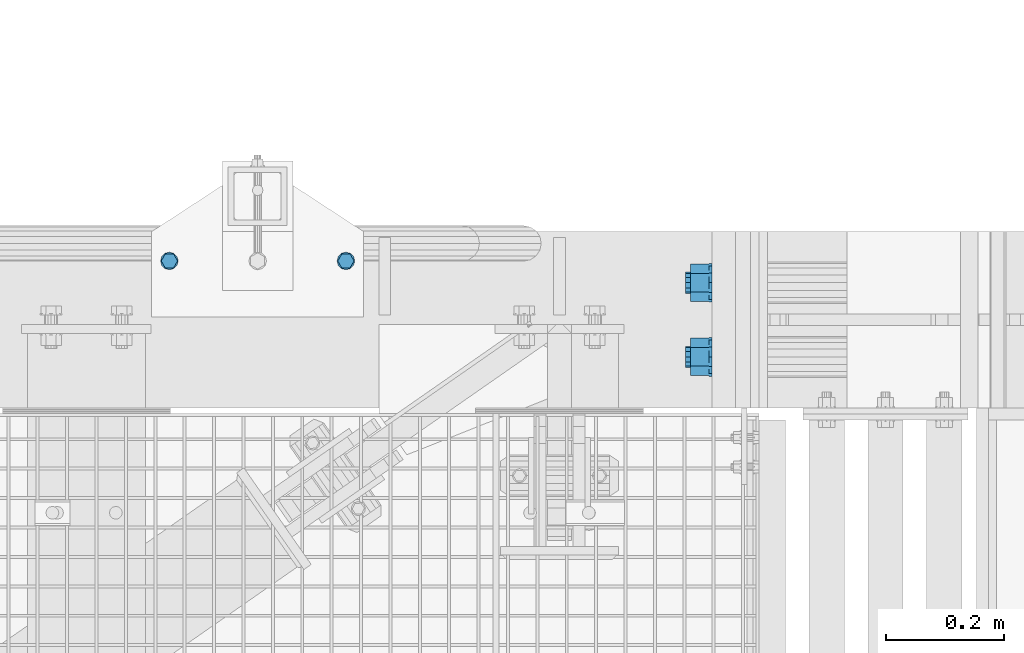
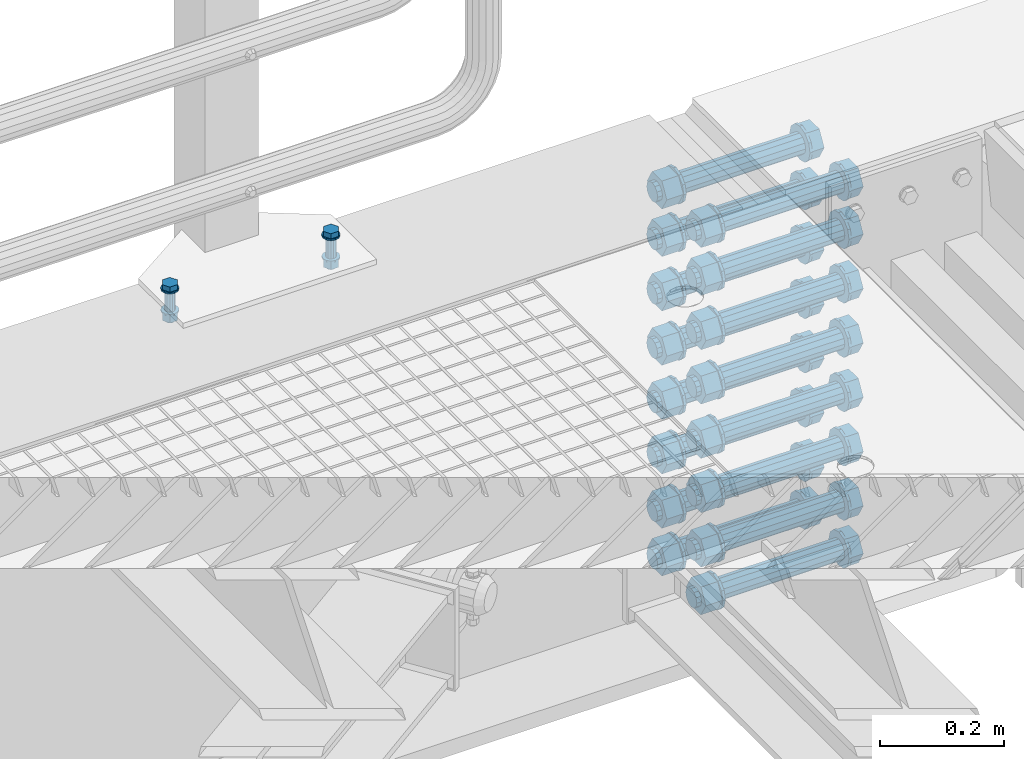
# One storey, part 58 of 1530: 2 mechanical fasteners.
"""IFC2X3 building model written with IfcOpenShell, lengths in millimetres."""

from ifc_helpers import new_model, si_unit, frame, origin_with_axes, place, context, subcontext, project, spatial, faceted_brep, source, transform, mapped, material, type_object, element, save


model = new_model("IFC2X3")

# Units and contexts
model_context = context("Model", 3, precision=1e-05, world=origin_with_axes())
body_context = subcontext(model_context, "Body", "Model", "MODEL_VIEW")
ifc_project = project(units=[si_unit("LENGTHUNIT", "METRE", prefix="MILLI"), si_unit("AREAUNIT", "SQUARE_METRE"), si_unit("VOLUMEUNIT", "CUBIC_METRE"), si_unit("MASSUNIT", "GRAM", prefix="KILO"), si_unit("TIMEUNIT", "SECOND"), si_unit("PLANEANGLEUNIT", "RADIAN"), si_unit("SOLIDANGLEUNIT", "STERADIAN"), si_unit("THERMODYNAMICTEMPERATUREUNIT", "DEGREE_CELSIUS"), si_unit("LUMINOUSINTENSITYUNIT", "LUMEN")], contexts=[model_context])

# Site, building, storey
site_placement = place(None, origin_with_axes())
site = spatial("IfcSite", under=ifc_project, at=site_placement, Name="Brattvåg", CompositionType="ELEMENT")
building_placement = place(site_placement, origin_with_axes())
building = spatial("IfcBuilding", under=site, at=building_placement, Name="Undefined", CompositionType="ELEMENT")
storey_placement = place(building_placement, origin_with_axes())
storey = spatial("IfcBuildingStorey", under=building, at=storey_placement, Name="Undefined", CompositionType="ELEMENT", Elevation=0.0)

# Mechanical fasteners
ifc_material = material(Name="8")
mechanical_fastener_type = type_object("IfcMechanicalFastenerType", Name="Bolt assembly")
shared_shape_1 = source(origin_with_axes(), body_context, "Body", "Brep", [
    faceted_brep([(31.7542648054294, -27.5, 0.0), (15.8771324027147, -27.5, 27.5), (-15.8771324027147, -27.5, 27.5), (-31.7542648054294, -27.5, 3.88877587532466e-15), (-15.8771324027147, -27.5, -27.5), (15.8771324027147, -27.5, -27.5), (15.8771324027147, -5.0, -27.5), (-15.8771324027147, -5.0, -27.5), (-31.7542648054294, -5.0, 3.88877587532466e-15), (-15.8771324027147, -5.0, 27.5), (15.8771324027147, -5.0, 27.5), (31.7542648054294, -5.0, 0.0), (18.0, -5.0, 0.0), (15.5884572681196, -5.0, 9.00000000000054), (8.99999999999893, -5.0, 15.5884572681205), (-1.86540476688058e-12, -5.0, 18.0), (-9.00000000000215, -5.0, 15.5884572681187), (-15.5884572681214, -5.0, 8.99999999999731), (-18.0, -5.0, -3.73080953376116e-12), (-15.5884572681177, -5.0, -9.00000000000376), (-8.9999999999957, -5.0, -15.5884572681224), (5.57623028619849e-12, -5.0, -18.0), (9.00000000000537, -5.0, -15.5884572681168), (15.5884572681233, -5.0, -8.99999999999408), (15.5884572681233, 275.0, -8.99999999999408), (9.00000000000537, 275.0, -15.5884572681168), (5.57623028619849e-12, 275.0, -18.0), (-8.9999999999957, 275.0, -15.5884572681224), (-15.5884572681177, 275.0, -9.00000000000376), (-18.0, 275.0, -3.73080953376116e-12), (-15.5884572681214, 275.0, 8.99999999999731), (-9.00000000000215, 275.0, 15.5884572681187), (-1.86540476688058e-12, 275.0, 18.0), (8.99999999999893, 275.0, 15.5884572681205), (15.5884572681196, 275.0, 9.00000000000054), (18.0, 275.0, 0.0), (33.0, -5.0, 0.0), (28.5788383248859, -5.0, 16.500000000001), (16.499999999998, -5.0, 28.5788383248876), (-3.41990873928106e-12, -5.0, 33.0), (-16.5000000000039, -5.0, 28.5788383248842), (-28.5788383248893, -5.0, 16.4999999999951), (-33.0, -5.0, -6.83981747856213e-12), (-28.5788383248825, -5.0, -16.5000000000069), (-16.4999999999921, -5.0, -28.578838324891), (1.02230888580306e-11, -5.0, -33.0), (16.5000000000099, -5.0, -28.5788383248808), (28.5788383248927, -5.0, -16.4999999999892), (28.5788383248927, 0.0, -16.4999999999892), (16.5000000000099, 0.0, -28.5788383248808), (1.02230888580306e-11, 0.0, -33.0), (-16.4999999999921, 0.0, -28.578838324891), (-28.5788383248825, 0.0, -16.5000000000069), (-33.0, 0.0, -6.83981747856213e-12), (-28.5788383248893, 0.0, 16.4999999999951), (-16.5000000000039, 0.0, 28.5788383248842), (-3.41990873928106e-12, 0.0, 33.0), (16.499999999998, 0.0, 28.5788383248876), (28.5788383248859, 0.0, 16.500000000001), (33.0, 0.0, 0.0), (33.0, 229.998829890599, 0.0), (28.5788383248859, 229.998829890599, 16.500000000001), (16.499999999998, 229.998829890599, 28.5788383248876), (-3.41990873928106e-12, 229.998829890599, 33.0), (-16.5000000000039, 229.998829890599, 28.5788383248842), (-28.5788383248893, 229.998829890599, 16.4999999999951), (-33.0, 229.998829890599, -6.83981747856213e-12), (-28.5788383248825, 229.998829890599, -16.5000000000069), (-16.4999999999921, 229.998829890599, -28.578838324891), (1.02230888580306e-11, 229.998829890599, -33.0), (16.5000000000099, 229.998829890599, -28.5788383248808), (28.5788383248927, 229.998829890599, -16.4999999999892), (28.5788383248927, 234.998829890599, -16.4999999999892), (16.5000000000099, 234.998829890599, -28.5788383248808), (1.02230888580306e-11, 234.998829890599, -33.0), (-16.4999999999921, 234.998829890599, -28.578838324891), (-28.5788383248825, 234.998829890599, -16.5000000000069), (-33.0, 234.998829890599, -6.83981747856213e-12), (-28.5788383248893, 234.998829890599, 16.4999999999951), (-16.5000000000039, 234.998829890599, 28.5788383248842), (-3.41990873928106e-12, 234.998829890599, 33.0), (16.499999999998, 234.998829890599, 28.5788383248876), (28.5788383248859, 234.998829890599, 16.500000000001), (33.0, 234.998829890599, 0.0), (31.7542648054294, 234.998829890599, 0.0), (15.8771324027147, 234.998829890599, 27.5), (-15.8771324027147, 234.998829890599, 27.5), (-31.7542648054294, 234.998829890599, 3.88877587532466e-15), (-15.8771324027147, 234.998829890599, -27.5), (15.8771324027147, 234.998829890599, -27.5), (15.8771324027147, 265.998829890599, -27.5), (-15.8771324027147, 265.998829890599, -27.5), (-31.7542648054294, 265.998829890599, 3.88877587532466e-15), (-15.8771324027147, 265.998829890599, 27.5), (15.8771324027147, 265.998829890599, 27.5), (31.7542648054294, 265.998829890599, 0.0)], [[[0, 1, 2, 3, 4, 5]], [[6, 7, 8, 9, 10, 11]], [[0, 11, 10, 1]], [[1, 10, 9, 2]], [[2, 9, 8, 3]], [[3, 8, 7, 4]], [[4, 7, 6, 5]], [[5, 6, 11, 0]], [[12, 13, 14, 15, 16, 17, 18, 19, 20, 21, 22, 23]], [[24, 25, 26, 27, 28, 29, 30, 31, 32, 33, 34, 35]], [[12, 35, 34, 13]], [[13, 34, 33, 14]], [[14, 33, 32, 15]], [[15, 32, 31, 16]], [[16, 31, 30, 17]], [[17, 30, 29, 18]], [[18, 29, 28, 19]], [[19, 28, 27, 20]], [[20, 27, 26, 21]], [[21, 26, 25, 22]], [[22, 25, 24, 23]], [[23, 24, 35, 12]], [[36, 37, 38, 39, 40, 41, 42, 43, 44, 45, 46, 47]], [[48, 49, 50, 51, 52, 53, 54, 55, 56, 57, 58, 59]], [[36, 59, 58, 37]], [[37, 58, 57, 38]], [[38, 57, 56, 39]], [[39, 56, 55, 40]], [[40, 55, 54, 41]], [[41, 54, 53, 42]], [[42, 53, 52, 43]], [[43, 52, 51, 44]], [[44, 51, 50, 45]], [[45, 50, 49, 46]], [[46, 49, 48, 47]], [[47, 48, 59, 36]], [[60, 61, 62, 63, 64, 65, 66, 67, 68, 69, 70, 71]], [[72, 73, 74, 75, 76, 77, 78, 79, 80, 81, 82, 83]], [[60, 83, 82, 61]], [[61, 82, 81, 62]], [[62, 81, 80, 63]], [[63, 80, 79, 64]], [[64, 79, 78, 65]], [[65, 78, 77, 66]], [[66, 77, 76, 67]], [[67, 76, 75, 68]], [[68, 75, 74, 69]], [[69, 74, 73, 70]], [[70, 73, 72, 71]], [[71, 72, 83, 60]], [[84, 85, 86, 87, 88, 89]], [[90, 91, 92, 93, 94, 95]], [[84, 95, 94, 85]], [[85, 94, 93, 86]], [[86, 93, 92, 87]], [[87, 92, 91, 88]], [[88, 91, 90, 89]], [[89, 90, 95, 84]]]),
    faceted_brep([(19.5, 0.1, 0.0), (16.8874953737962, 0.1, 9.75000000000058), (9.74999999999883, 0.1, 16.8874953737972), (-2.02085516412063e-12, 0.1, 19.5), (-9.75000000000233, 0.1, 16.8874953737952), (-16.8874953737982, 0.1, 9.74999999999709), (-19.5, 0.1, -4.04171032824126e-12), (-16.8874953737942, 0.1, -9.75000000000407), (-9.74999999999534, 0.1, -16.8874953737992), (6.0409161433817e-12, 0.1, -19.5), (9.75000000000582, 0.1, -16.8874953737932), (16.8874953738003, 0.1, -9.74999999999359), (16.8874953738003, 150.1, -9.74999999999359), (9.75000000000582, 150.1, -16.8874953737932), (6.0409161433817e-12, 150.1, -19.5), (-9.74999999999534, 150.1, -16.8874953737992), (-16.8874953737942, 150.1, -9.75000000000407), (-19.5, 150.1, -4.04171032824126e-12), (-16.8874953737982, 150.1, 9.74999999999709), (-9.75000000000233, 150.1, 16.8874953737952), (-2.02085516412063e-12, 150.1, 19.5), (9.74999999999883, 150.1, 16.8874953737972), (16.8874953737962, 150.1, 9.75000000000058), (19.5, 150.1, 0.0), (19.5, 149.998829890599, 0.0), (16.8874953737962, 149.998829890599, 9.75000000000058), (9.74999999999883, 149.998829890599, 16.8874953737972), (-2.02085516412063e-12, 149.998829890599, 19.5), (-9.75000000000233, 149.998829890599, 16.8874953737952), (-16.8874953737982, 149.998829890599, 9.74999999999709), (-19.5, 149.998829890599, -4.04171032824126e-12), (-16.8874953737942, 149.998829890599, -9.75000000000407), (-9.74999999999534, 149.998829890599, -16.8874953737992), (6.0409161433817e-12, 149.998829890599, -19.5), (9.75000000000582, 149.998829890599, -16.8874953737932), (16.8874953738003, 149.998829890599, -9.74999999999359), (16.8874953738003, 189.998829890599, -9.74999999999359), (9.75000000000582, 189.998829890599, -16.8874953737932), (6.0409161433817e-12, 189.998829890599, -19.5), (-9.74999999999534, 189.998829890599, -16.8874953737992), (-16.8874953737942, 189.998829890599, -9.75000000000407), (-19.5, 189.998829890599, -4.04171032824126e-12), (-16.8874953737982, 189.998829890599, 9.74999999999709), (-9.75000000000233, 189.998829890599, 16.8874953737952), (-2.02085516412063e-12, 189.998829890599, 19.5), (9.74999999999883, 189.998829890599, 16.8874953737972), (16.8874953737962, 189.998829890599, 9.75000000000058), (19.5, 189.998829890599, 0.0), (19.5, 189.898829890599, 0.0), (16.8874953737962, 189.898829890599, 9.75000000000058), (9.74999999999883, 189.898829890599, 16.8874953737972), (-2.02085516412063e-12, 189.898829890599, 19.5), (-9.75000000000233, 189.898829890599, 16.8874953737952), (-16.8874953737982, 189.898829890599, 9.74999999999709), (-19.5, 189.898829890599, -4.04171032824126e-12), (-16.8874953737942, 189.898829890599, -9.75000000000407), (-9.74999999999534, 189.898829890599, -16.8874953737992), (6.0409161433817e-12, 189.898829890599, -19.5), (9.75000000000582, 189.898829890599, -16.8874953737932), (16.8874953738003, 189.898829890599, -9.74999999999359), (16.8874953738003, 229.998829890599, -9.74999999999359), (9.75000000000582, 229.998829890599, -16.8874953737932), (6.0409161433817e-12, 229.998829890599, -19.5), (-9.74999999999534, 229.998829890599, -16.8874953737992), (-16.8874953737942, 229.998829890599, -9.75000000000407), (-19.5, 229.998829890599, -4.04171032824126e-12), (-16.8874953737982, 229.998829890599, 9.74999999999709), (-9.75000000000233, 229.998829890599, 16.8874953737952), (-2.02085516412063e-12, 229.998829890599, 19.5), (9.74999999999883, 229.998829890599, 16.8874953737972), (16.8874953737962, 229.998829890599, 9.75000000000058), (19.5, 229.998829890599, 0.0)], [[[0, 1, 2, 3, 4, 5, 6, 7, 8, 9, 10, 11]], [[12, 13, 14, 15, 16, 17, 18, 19, 20, 21, 22, 23]], [[0, 23, 22, 1]], [[1, 22, 21, 2]], [[2, 21, 20, 3]], [[3, 20, 19, 4]], [[4, 19, 18, 5]], [[5, 18, 17, 6]], [[6, 17, 16, 7]], [[7, 16, 15, 8]], [[8, 15, 14, 9]], [[9, 14, 13, 10]], [[10, 13, 12, 11]], [[11, 12, 23, 0]], [[24, 25, 26, 27, 28, 29, 30, 31, 32, 33, 34, 35]], [[36, 37, 38, 39, 40, 41, 42, 43, 44, 45, 46, 47]], [[24, 47, 46, 25]], [[25, 46, 45, 26]], [[26, 45, 44, 27]], [[27, 44, 43, 28]], [[28, 43, 42, 29]], [[29, 42, 41, 30]], [[30, 41, 40, 31]], [[31, 40, 39, 32]], [[32, 39, 38, 33]], [[33, 38, 37, 34]], [[34, 37, 36, 35]], [[35, 36, 47, 24]], [[48, 49, 50, 51, 52, 53, 54, 55, 56, 57, 58, 59]], [[60, 61, 62, 63, 64, 65, 66, 67, 68, 69, 70, 71]], [[48, 71, 70, 49]], [[49, 70, 69, 50]], [[50, 69, 68, 51]], [[51, 68, 67, 52]], [[52, 67, 66, 53]], [[53, 66, 65, 54]], [[54, 65, 64, 55]], [[55, 64, 63, 56]], [[56, 63, 62, 57]], [[57, 62, 61, 58]], [[58, 61, 60, 59]], [[59, 60, 71, 48]]]),
])
mechanical_fastener_1_placement = place(storey_placement, frame((17046.9988298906, 8937.00000297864, -445.000288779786), z_axis=(0.0, 0.0, 1.0), x_axis=(0.0, 1.0, 0.0)))
element("IfcMechanicalFastener", 1, at=mechanical_fastener_1_placement, inside=storey, type_object=mechanical_fastener_type, material=ifc_material, Name="Bolt assembly", NominalDiameter=36.0, NominalLength=280.0, context=body_context, shape_type="MappedRepresentation", body=[
    mapped(shared_shape_1, transform((1.43700162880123e-10, 0.0, -361.500000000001))),
    mapped(shared_shape_1, transform((126.000000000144, 0.0, -361.500000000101))),
    mapped(shared_shape_1, transform((1.0550138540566e-10, 0.0, -267.5))),
    mapped(shared_shape_1, transform((126.000000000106, 0.0, -267.500000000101))),
    mapped(shared_shape_1, transform((6.3664629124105e-11, 0.0, -160.5))),
    mapped(shared_shape_1, transform((126.000000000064, 0.0, -160.5000000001))),
    mapped(shared_shape_1, transform((2.00088834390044e-11, 0.0, -53.5000000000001))),
    mapped(shared_shape_1, transform((126.000000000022, 0.0, -53.5000000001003))),
    mapped(shared_shape_1, transform((-2.18278728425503e-11, 0.0, 53.5000000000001))),
    mapped(shared_shape_1, transform((125.999999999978, 0.0, 53.4999999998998))),
    mapped(shared_shape_1, transform((-6.3664629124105e-11, 0.0, 160.5))),
    mapped(shared_shape_1, transform((125.999999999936, 0.0, 160.4999999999))),
    mapped(shared_shape_1, transform((-1.07320374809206e-10, 0.0, 267.5))),
    mapped(shared_shape_1, transform((125.999999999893, 0.0, 267.4999999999))),
    mapped(shared_shape_1, transform((-1.43700162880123e-10, 0.0, 361.500000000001))),
    mapped(shared_shape_1, transform((125.999999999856, 0.0, 361.4999999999))),
])
shared_shape_2 = source(origin_with_axes(), body_context, "Body", "Brep", [
    faceted_brep([(13.856406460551, -13.0, 0.0), (6.92820323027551, -13.0, 12.0), (-6.92820323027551, -13.0, 12.0), (-13.856406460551, -13.0, 1.69692038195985e-15), (-6.92820323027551, -13.0, -12.0), (6.9282032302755, -13.0, -12.0), (6.9282032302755, -3.0, -12.0), (-6.92820323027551, -3.0, -12.0), (-13.856406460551, -3.0, 1.69692038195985e-15), (-6.92820323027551, -3.0, 12.0), (6.92820323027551, -3.0, 12.0), (13.856406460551, -3.0, 0.0), (8.0, -3.0, 0.0), (6.92820323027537, -3.0, 4.00000000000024), (3.99999999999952, -3.0, 6.92820323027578), (-8.29068785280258e-13, -3.0, 8.0), (-4.00000000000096, -3.0, 6.92820323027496), (-6.9282032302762, -3.0, 3.99999999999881), (-8.0, -3.0, -1.65813757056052e-12), (-6.92820323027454, -3.0, -4.00000000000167), (-3.99999999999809, -3.0, -6.92820323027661), (2.47832457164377e-12, -3.0, -8.0), (4.00000000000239, -3.0, -6.92820323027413), (6.92820323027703, -3.0, -3.99999999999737), (6.92820323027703, 62.0000000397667, -3.99999999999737), (4.00000000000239, 62.0000000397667, -6.92820323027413), (2.47832457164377e-12, 62.0000000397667, -8.0), (-3.99999999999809, 62.0000000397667, -6.92820323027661), (-6.92820323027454, 62.0000000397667, -4.00000000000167), (-8.0, 62.0000000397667, -1.65813757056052e-12), (-6.9282032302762, 62.0000000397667, 3.99999999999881), (-4.00000000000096, 62.0000000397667, 6.92820323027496), (-8.29068785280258e-13, 62.0000000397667, 8.0), (3.99999999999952, 62.0000000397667, 6.92820323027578), (6.92820323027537, 62.0000000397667, 4.00000000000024), (8.0, 62.0000000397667, 0.0), (15.0, -3.0, 0.0), (12.9903810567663, -3.0, 7.50000000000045), (7.4999999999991, -3.0, 12.9903810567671), (-1.55450397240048e-12, -3.0, 15.0), (-7.50000000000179, -3.0, 12.9903810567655), (-12.9903810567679, -3.0, 7.49999999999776), (-15.0, -3.0, -3.10900794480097e-12), (-12.9903810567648, -3.0, -7.50000000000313), (-7.49999999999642, -3.0, -12.9903810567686), (4.64685857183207e-12, -3.0, -15.0), (7.50000000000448, -3.0, -12.990381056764), (12.9903810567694, -3.0, -7.49999999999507), (12.9903810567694, 0.0, -7.49999999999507), (7.50000000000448, 0.0, -12.990381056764), (0.0, 0.0, -15.0), (-7.49999999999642, 0.0, -12.9903810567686), (-12.9903810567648, 0.0, -7.50000000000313), (-15.0, 0.0, -3.10900794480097e-12), (-12.9903810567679, 0.0, 7.49999999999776), (-7.50000000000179, 0.0, 12.9903810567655), (0.0, 0.0, 15.0), (7.4999999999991, 0.0, 12.9903810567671), (12.9903810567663, 0.0, 7.50000000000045), (15.0, 0.0, 0.0), (15.0, 39.9997390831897, 0.0), (12.9903810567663, 39.9997390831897, 7.50000000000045), (7.4999999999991, 39.9997390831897, 12.9903810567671), (-1.55450397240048e-12, 39.9997390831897, 15.0), (-7.50000000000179, 39.9997390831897, 12.9903810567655), (-12.9903810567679, 39.9997390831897, 7.49999999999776), (-15.0, 39.9997390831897, -3.10900794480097e-12), (-12.9903810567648, 39.9997390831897, -7.50000000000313), (-7.49999999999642, 39.9997390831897, -12.9903810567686), (4.64685857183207e-12, 39.9997390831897, -15.0), (7.50000000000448, 39.9997390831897, -12.990381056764), (12.9903810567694, 39.9997390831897, -7.49999999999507), (12.9903810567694, 42.9997390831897, -7.49999999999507), (7.50000000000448, 42.9997390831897, -12.990381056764), (4.64685857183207e-12, 42.9997390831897, -15.0), (-7.49999999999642, 42.9997390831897, -12.9903810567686), (-12.9903810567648, 42.9997390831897, -7.50000000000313), (-15.0, 42.9997390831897, -3.10900794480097e-12), (-12.9903810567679, 42.9997390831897, 7.49999999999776), (-7.50000000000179, 42.9997390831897, 12.9903810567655), (-1.55450397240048e-12, 42.9997390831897, 15.0), (7.4999999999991, 42.9997390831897, 12.9903810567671), (12.9903810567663, 42.9997390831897, 7.50000000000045), (15.0, 42.9997390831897, 0.0), (13.856406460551, 42.9997390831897, 0.0), (6.92820323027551, 42.9997390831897, 12.0), (-6.92820323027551, 42.9997390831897, 12.0), (-13.856406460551, 42.9997390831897, 1.69692038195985e-15), (-6.92820323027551, 42.9997390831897, -12.0), (6.9282032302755, 42.9997390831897, -12.0), (6.9282032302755, 57.7997392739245, -12.0), (-6.92820323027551, 57.7997392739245, -12.0), (-13.856406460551, 57.7997392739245, 1.69692038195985e-15), (-6.92820323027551, 57.7997392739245, 12.0), (6.92820323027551, 57.7997392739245, 12.0), (13.856406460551, 57.7997392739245, 0.0)], [[[0, 1, 2, 3, 4, 5]], [[6, 7, 8, 9, 10, 11]], [[0, 11, 10, 1]], [[1, 10, 9, 2]], [[2, 9, 8, 3]], [[3, 8, 7, 4]], [[4, 7, 6, 5]], [[5, 6, 11, 0]], [[12, 13, 14, 15, 16, 17, 18, 19, 20, 21, 22, 23]], [[24, 25, 26, 27, 28, 29, 30, 31, 32, 33, 34, 35]], [[12, 35, 34, 13]], [[13, 34, 33, 14]], [[14, 33, 32, 15]], [[15, 32, 31, 16]], [[16, 31, 30, 17]], [[17, 30, 29, 18]], [[18, 29, 28, 19]], [[19, 28, 27, 20]], [[20, 27, 26, 21]], [[21, 26, 25, 22]], [[22, 25, 24, 23]], [[23, 24, 35, 12]], [[36, 37, 38, 39, 40, 41, 42, 43, 44, 45, 46, 47]], [[48, 49, 50, 51, 52, 53, 54, 55, 56, 57, 58, 59]], [[36, 59, 58, 37]], [[37, 58, 57, 38]], [[38, 57, 56, 39]], [[39, 56, 55, 40]], [[40, 55, 54, 41]], [[41, 54, 53, 42]], [[42, 53, 52, 43]], [[43, 52, 51, 44]], [[44, 51, 50, 45]], [[45, 50, 49, 46]], [[46, 49, 48, 47]], [[47, 48, 59, 36]], [[60, 61, 62, 63, 64, 65, 66, 67, 68, 69, 70, 71]], [[72, 73, 74, 75, 76, 77, 78, 79, 80, 81, 82, 83]], [[60, 83, 82, 61]], [[61, 82, 81, 62]], [[62, 81, 80, 63]], [[63, 80, 79, 64]], [[64, 79, 78, 65]], [[65, 78, 77, 66]], [[66, 77, 76, 67]], [[67, 76, 75, 68]], [[68, 75, 74, 69]], [[69, 74, 73, 70]], [[70, 73, 72, 71]], [[71, 72, 83, 60]], [[84, 85, 86, 87, 88, 89]], [[90, 91, 92, 93, 94, 95]], [[84, 95, 94, 85]], [[85, 94, 93, 86]], [[86, 93, 92, 87]], [[87, 92, 91, 88]], [[88, 91, 90, 89]], [[89, 90, 95, 84]]]),
    faceted_brep([(9.0, 0.1, 0.0), (7.79422863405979, 0.1, 4.50000000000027), (4.49999999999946, 0.1, 7.79422863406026), (-9.3270238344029e-13, 0.1, 9.0), (-4.50000000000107, 0.1, 7.79422863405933), (-7.79422863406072, 0.1, 4.49999999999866), (-9.0, 0.1, -1.86540476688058e-12), (-7.79422863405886, 0.1, -4.50000000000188), (-4.49999999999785, 0.1, -7.79422863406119), (2.78811514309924e-12, 0.1, -9.0), (4.50000000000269, 0.1, -7.7942286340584), (7.79422863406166, 0.1, -4.49999999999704), (7.79422863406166, 10.1, -4.49999999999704), (4.50000000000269, 10.1, -7.7942286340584), (2.78811514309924e-12, 10.1, -9.0), (-4.49999999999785, 10.1, -7.79422863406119), (-7.79422863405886, 10.1, -4.50000000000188), (-9.0, 10.1, -1.86540476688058e-12), (-7.79422863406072, 10.1, 4.49999999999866), (-4.50000000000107, 10.1, 7.79422863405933), (-9.3270238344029e-13, 10.1, 9.0), (4.49999999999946, 10.1, 7.79422863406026), (7.79422863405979, 10.1, 4.50000000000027), (9.0, 10.1, 0.0), (9.0, 9.8997390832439, 0.0), (7.79422863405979, 9.8997390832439, 4.50000000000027), (4.49999999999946, 9.8997390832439, 7.79422863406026), (-9.3270238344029e-13, 9.8997390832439, 9.0), (-4.50000000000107, 9.8997390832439, 7.79422863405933), (-7.79422863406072, 9.8997390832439, 4.49999999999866), (-9.0, 9.8997390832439, -1.86540476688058e-12), (-7.79422863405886, 9.8997390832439, -4.50000000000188), (-4.49999999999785, 9.8997390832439, -7.79422863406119), (2.78811514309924e-12, 9.8997390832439, -9.0), (4.50000000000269, 9.8997390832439, -7.7942286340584), (7.79422863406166, 9.8997390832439, -4.49999999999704), (7.79422863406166, 39.9997390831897, -4.49999999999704), (4.50000000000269, 39.9997390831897, -7.7942286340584), (2.78811514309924e-12, 39.9997390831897, -9.0), (-4.49999999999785, 39.9997390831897, -7.79422863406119), (-7.79422863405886, 39.9997390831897, -4.50000000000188), (-9.0, 39.9997390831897, -1.86540476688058e-12), (-7.79422863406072, 39.9997390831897, 4.49999999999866), (-4.50000000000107, 39.9997390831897, 7.79422863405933), (-9.3270238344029e-13, 39.9997390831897, 9.0), (4.49999999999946, 39.9997390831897, 7.79422863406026), (7.79422863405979, 39.9997390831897, 4.50000000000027), (9.0, 39.9997390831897, 0.0)], [[[0, 1, 2, 3, 4, 5, 6, 7, 8, 9, 10, 11]], [[12, 13, 14, 15, 16, 17, 18, 19, 20, 21, 22, 23]], [[0, 23, 22, 1]], [[1, 22, 21, 2]], [[2, 21, 20, 3]], [[3, 20, 19, 4]], [[4, 19, 18, 5]], [[5, 18, 17, 6]], [[6, 17, 16, 7]], [[7, 16, 15, 8]], [[8, 15, 14, 9]], [[9, 14, 13, 10]], [[10, 13, 12, 11]], [[11, 12, 23, 0]], [[24, 25, 26, 27, 28, 29, 30, 31, 32, 33, 34, 35]], [[36, 37, 38, 39, 40, 41, 42, 43, 44, 45, 46, 47]], [[24, 47, 46, 25]], [[25, 46, 45, 26]], [[26, 45, 44, 27]], [[27, 44, 43, 28]], [[28, 43, 42, 29]], [[29, 42, 41, 30]], [[30, 41, 40, 31]], [[31, 40, 39, 32]], [[32, 39, 38, 33]], [[33, 38, 37, 34]], [[34, 37, 36, 35]], [[35, 36, 47, 24]]]),
])
mechanical_fastener_2_placement = place(storey_placement, frame((15895.0008086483, 9099.99960715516, 9.99973908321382), z_axis=(0.0, 1.0, 0.0), x_axis=(1.0, 0.0, 0.0)))
element("IfcMechanicalFastener", 2, at=mechanical_fastener_2_placement, inside=storey, type_object=mechanical_fastener_type, material=ifc_material, Name="Bolt assembly", NominalDiameter=16.0, NominalLength=65.0, context=body_context, shape_type="MappedRepresentation", body=[
    mapped(shared_shape_2, transform((0.0, 0.0, 0.0))),
    mapped(shared_shape_2, transform((300.0, 0.0, 0.0))),
])

save(model, "model.ifc")
